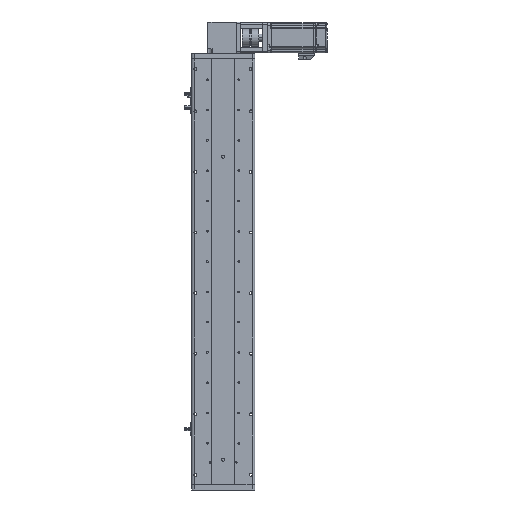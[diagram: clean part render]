
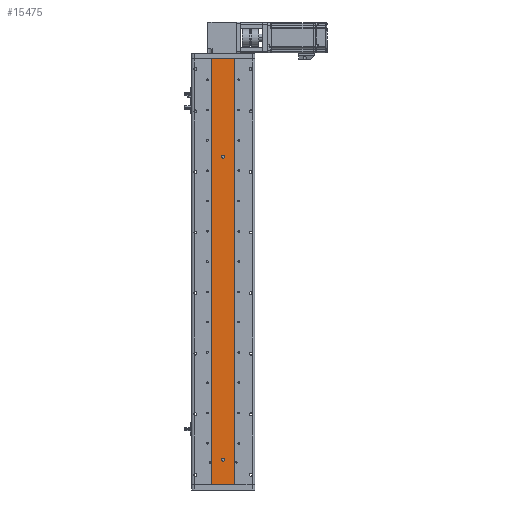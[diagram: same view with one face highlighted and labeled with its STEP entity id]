
A CAD part, front view. The second image highlights one B-rep face of the part: STEP entity #15475.
In plain terms, the highlighted planar face has unit normal (0, -1, 0).
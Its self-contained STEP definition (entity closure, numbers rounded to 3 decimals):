
#760 = CARTESIAN_POINT ( 'NONE',  ( 0., 1., -372. ) ) ;
#911 = CARTESIAN_POINT ( 'NONE',  ( 23., 1., -422. ) ) ;
#1901 = EDGE_CURVE ( 'NONE', #58706, #15805, #48327, .T. ) ;
#3358 = EDGE_LOOP ( 'NONE', ( #28101, #61014 ) ) ;
#4052 = DIRECTION ( 'NONE',  ( 0., 0., -1. ) ) ;
#4371 = ORIENTED_EDGE ( 'NONE', *, *, #34994, .F. ) ;
#4519 = CARTESIAN_POINT ( 'NONE',  ( 23., 1., 422. ) ) ;
#5465 = DIRECTION ( 'NONE',  ( 0., 0., -1. ) ) ;
#8257 = CARTESIAN_POINT ( 'NONE',  ( 0., 1., -375. ) ) ;
#9030 = AXIS2_PLACEMENT_3D ( 'NONE', #60447, #32310, #4052 ) ;
#11650 = CARTESIAN_POINT ( 'NONE',  ( 0., 1., -372. ) ) ;
#12159 = FACE_BOUND ( 'NONE', #56824, .T. ) ;
#13773 = CARTESIAN_POINT ( 'NONE',  ( 23., 1., 422.001 ) ) ;
#14500 = VERTEX_POINT ( 'NONE', #8257 ) ;
#14968 = DIRECTION ( 'NONE',  ( 0., -1., 0. ) ) ;
#15475 = ADVANCED_FACE ( 'NONE', ( #12159, #37211, #49749 ), #54925, .F. ) ;
#15690 = VERTEX_POINT ( 'NONE', #18480 ) ;
#15805 = VERTEX_POINT ( 'NONE', #53046 ) ;
#15832 = VECTOR ( 'NONE', #43342, 1000. ) ;
#16438 = DIRECTION ( 'NONE',  ( 0., 0., -1. ) ) ;
#16671 = VERTEX_POINT ( 'NONE', #4519 ) ;
#17630 = CIRCLE ( 'NONE', #9030, 3. ) ;
#18067 = AXIS2_PLACEMENT_3D ( 'NONE', #26729, #59637, #31480 ) ;
#18480 = CARTESIAN_POINT ( 'NONE',  ( -23., 1., 422. ) ) ;
#18882 = EDGE_CURVE ( 'NONE', #55885, #37651, #53423, .T. ) ;
#21738 = ORIENTED_EDGE ( 'NONE', *, *, #53874, .F. ) ;
#26154 = VECTOR ( 'NONE', #57066, 1000. ) ;
#26591 = CARTESIAN_POINT ( 'NONE',  ( 23., 1., -422. ) ) ;
#26729 = CARTESIAN_POINT ( 'NONE',  ( 23., 1., 422.001 ) ) ;
#28101 = ORIENTED_EDGE ( 'NONE', *, *, #48081, .F. ) ;
#29141 = CARTESIAN_POINT ( 'NONE',  ( -23., 1., 422.001 ) ) ;
#31480 = DIRECTION ( 'NONE',  ( 0., 0., 1. ) ) ;
#32310 = DIRECTION ( 'NONE',  ( 0., -1., 0. ) ) ;
#33145 = ORIENTED_EDGE ( 'NONE', *, *, #18882, .T. ) ;
#33709 = DIRECTION ( 'NONE',  ( 0., -1., 0. ) ) ;
#33820 = DIRECTION ( 'NONE',  ( 0., 0., -1. ) ) ;
#34994 = EDGE_CURVE ( 'NONE', #15690, #16671, #38628, .T. ) ;
#37211 = FACE_BOUND ( 'NONE', #3358, .T. ) ;
#37651 = VERTEX_POINT ( 'NONE', #26591 ) ;
#37867 = CARTESIAN_POINT ( 'NONE',  ( -23., 1., -422. ) ) ;
#38628 = LINE ( 'NONE', #52346, #26154 ) ;
#38948 = EDGE_CURVE ( 'NONE', #15690, #55885, #54094, .T. ) ;
#39285 = ORIENTED_EDGE ( 'NONE', *, *, #51321, .F. ) ;
#39303 = LINE ( 'NONE', #13773, #51847 ) ;
#41552 = VECTOR ( 'NONE', #33820, 1000. ) ;
#42032 = DIRECTION ( 'NONE',  ( 0., 0., -1. ) ) ;
#43197 = CARTESIAN_POINT ( 'NONE',  ( 0., 1., 228. ) ) ;
#43342 = DIRECTION ( 'NONE',  ( 1., 0., 0. ) ) ;
#43865 = EDGE_CURVE ( 'NONE', #45022, #14500, #48572, .T. ) ;
#44652 = DIRECTION ( 'NONE',  ( 0., -1., 0. ) ) ;
#45022 = VERTEX_POINT ( 'NONE', #50586 ) ;
#46538 = EDGE_LOOP ( 'NONE', ( #57492, #33145, #39285, #4371 ) ) ;
#47908 = DIRECTION ( 'NONE',  ( 0., 0., -1. ) ) ;
#48081 = EDGE_CURVE ( 'NONE', #14500, #45022, #56597, .T. ) ;
#48327 = CIRCLE ( 'NONE', #49426, 3. ) ;
#48572 = CIRCLE ( 'NONE', #52302, 3. ) ;
#49426 = AXIS2_PLACEMENT_3D ( 'NONE', #43197, #14968, #47908 ) ;
#49749 = FACE_OUTER_BOUND ( 'NONE', #46538, .T. ) ;
#50586 = CARTESIAN_POINT ( 'NONE',  ( 0., 1., -369. ) ) ;
#51321 = EDGE_CURVE ( 'NONE', #16671, #37651, #39303, .T. ) ;
#51737 = AXIS2_PLACEMENT_3D ( 'NONE', #11650, #44652, #16438 ) ;
#51847 = VECTOR ( 'NONE', #42032, 1000. ) ;
#52302 = AXIS2_PLACEMENT_3D ( 'NONE', #760, #33709, #5465 ) ;
#52346 = CARTESIAN_POINT ( 'NONE',  ( 23., 1., 422. ) ) ;
#53046 = CARTESIAN_POINT ( 'NONE',  ( 0., 1., 225. ) ) ;
#53423 = LINE ( 'NONE', #911, #15832 ) ;
#53874 = EDGE_CURVE ( 'NONE', #15805, #58706, #17630, .T. ) ;
#54094 = LINE ( 'NONE', #29141, #41552 ) ;
#54925 = PLANE ( 'NONE',  #18067 ) ;
#55885 = VERTEX_POINT ( 'NONE', #37867 ) ;
#56597 = CIRCLE ( 'NONE', #51737, 3. ) ;
#56824 = EDGE_LOOP ( 'NONE', ( #21738, #60874 ) ) ;
#57066 = DIRECTION ( 'NONE',  ( 1., 0., 0. ) ) ;
#57492 = ORIENTED_EDGE ( 'NONE', *, *, #38948, .T. ) ;
#57621 = CARTESIAN_POINT ( 'NONE',  ( 0., 1., 231. ) ) ;
#58706 = VERTEX_POINT ( 'NONE', #57621 ) ;
#59637 = DIRECTION ( 'NONE',  ( 0., 1., 0. ) ) ;
#60447 = CARTESIAN_POINT ( 'NONE',  ( 0., 1., 228. ) ) ;
#60874 = ORIENTED_EDGE ( 'NONE', *, *, #1901, .F. ) ;
#61014 = ORIENTED_EDGE ( 'NONE', *, *, #43865, .F. ) ;
